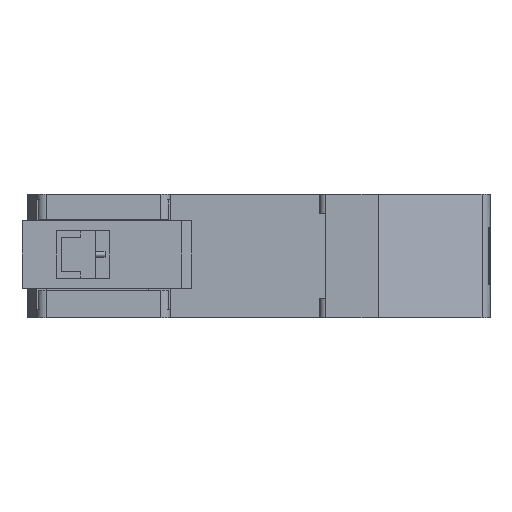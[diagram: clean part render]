
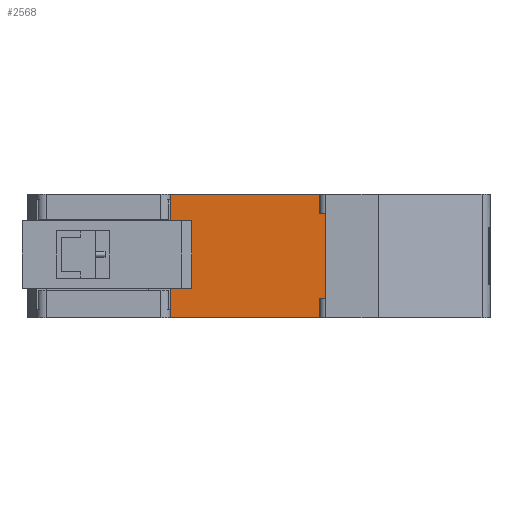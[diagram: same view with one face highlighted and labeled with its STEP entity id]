
A CAD part, front view. The second image highlights one B-rep face of the part: STEP entity #2568.
In plain terms, the highlighted planar face has unit normal (0, -1, 0).
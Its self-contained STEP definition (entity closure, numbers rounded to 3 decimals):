
#175 = DIRECTION ( 'NONE',  ( 0., 0., -1. ) ) ;
#189 = VECTOR ( 'NONE', #3092, 1000. ) ;
#250 = LINE ( 'NONE', #4547, #2764 ) ;
#268 = EDGE_LOOP ( 'NONE', ( #405, #868, #5040, #621 ) ) ;
#405 = ORIENTED_EDGE ( 'NONE', *, *, #5154, .F. ) ;
#515 = CARTESIAN_POINT ( 'NONE',  ( 13.722, -25.147, 0. ) ) ;
#621 = ORIENTED_EDGE ( 'NONE', *, *, #5593, .T. ) ;
#868 = ORIENTED_EDGE ( 'NONE', *, *, #2614, .F. ) ;
#1032 = DIRECTION ( 'NONE',  ( 0., 0., -1. ) ) ;
#1063 = DIRECTION ( 'NONE',  ( 0., 0., -1. ) ) ;
#1272 = VERTEX_POINT ( 'NONE', #4497 ) ;
#1456 = CARTESIAN_POINT ( 'NONE',  ( 0., -25.147, 25.4 ) ) ;
#1773 = LINE ( 'NONE', #3527, #189 ) ;
#1947 = VECTOR ( 'NONE', #175, 1000. ) ;
#2174 = CARTESIAN_POINT ( 'NONE',  ( 0., -25.147, 25.4 ) ) ;
#2337 = LINE ( 'NONE', #4191, #1947 ) ;
#2485 = VECTOR ( 'NONE', #2578, 1000. ) ;
#2568 = ADVANCED_FACE ( 'NONE', ( #5416 ), #3182, .T. ) ;
#2575 = AXIS2_PLACEMENT_3D ( 'NONE', #1456, #5481, #1063 ) ;
#2578 = DIRECTION ( 'NONE',  ( -1., 0., 0. ) ) ;
#2614 = EDGE_CURVE ( 'NONE', #3933, #4216, #250, .T. ) ;
#2764 = VECTOR ( 'NONE', #1032, 1000. ) ;
#3092 = DIRECTION ( 'NONE',  ( -1., 0., 0. ) ) ;
#3182 = PLANE ( 'NONE',  #2575 ) ;
#3527 = CARTESIAN_POINT ( 'NONE',  ( 0., -25.147, 0. ) ) ;
#3933 = VERTEX_POINT ( 'NONE', #5604 ) ;
#3976 = VERTEX_POINT ( 'NONE', #4265 ) ;
#4191 = CARTESIAN_POINT ( 'NONE',  ( -18.229, -25.147, 25.4 ) ) ;
#4216 = VERTEX_POINT ( 'NONE', #515 ) ;
#4265 = CARTESIAN_POINT ( 'NONE',  ( -18.229, -25.147, 25.4 ) ) ;
#4497 = CARTESIAN_POINT ( 'NONE',  ( -18.229, -25.147, 0. ) ) ;
#4547 = CARTESIAN_POINT ( 'NONE',  ( 13.722, -25.147, 25.4 ) ) ;
#4808 = LINE ( 'NONE', #2174, #2485 ) ;
#5040 = ORIENTED_EDGE ( 'NONE', *, *, #5087, .T. ) ;
#5087 = EDGE_CURVE ( 'NONE', #3933, #3976, #4808, .T. ) ;
#5154 = EDGE_CURVE ( 'NONE', #4216, #1272, #1773, .T. ) ;
#5416 = FACE_OUTER_BOUND ( 'NONE', #268, .T. ) ;
#5481 = DIRECTION ( 'NONE',  ( 0., -1., 0. ) ) ;
#5593 = EDGE_CURVE ( 'NONE', #3976, #1272, #2337, .T. ) ;
#5604 = CARTESIAN_POINT ( 'NONE',  ( 13.722, -25.147, 25.4 ) ) ;
